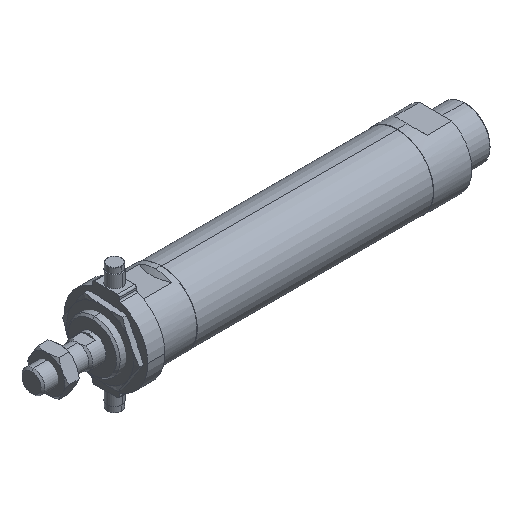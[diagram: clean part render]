
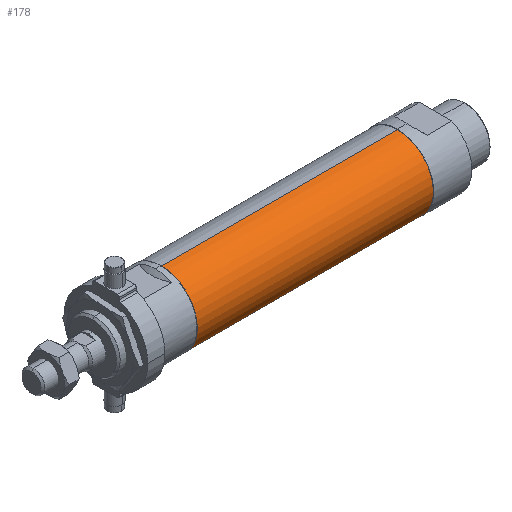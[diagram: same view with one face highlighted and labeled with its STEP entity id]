
A CAD part, isometric view. The second image highlights one B-rep face of the part: STEP entity #178.
In plain terms, the highlighted cylindrical face has radius 18.8 mm (diameter 37.6 mm), a partial arc.
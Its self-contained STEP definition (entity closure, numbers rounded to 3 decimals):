
#129 = CIRCLE ( 'NONE', #4514, 18.8 ) ;
#178 = ADVANCED_FACE ( 'NONE', ( #1795 ), #1429, .T. ) ;
#688 = CARTESIAN_POINT ( 'NONE',  ( 192., 0., 18.8 ) ) ;
#993 = CARTESIAN_POINT ( 'NONE',  ( 68., 0., -18.8 ) ) ;
#1014 = EDGE_LOOP ( 'NONE', ( #4348, #1630, #1169, #1707 ) ) ;
#1018 = DIRECTION ( 'NONE',  ( 0., 0., 1. ) ) ;
#1046 = EDGE_CURVE ( 'NONE', #3927, #2437, #2261, .T. ) ;
#1131 = CARTESIAN_POINT ( 'NONE',  ( 192., 0., -18.8 ) ) ;
#1169 = ORIENTED_EDGE ( 'NONE', *, *, #3642, .T. ) ;
#1200 = DIRECTION ( 'NONE',  ( 0., 0., 1. ) ) ;
#1270 = DIRECTION ( 'NONE',  ( 0., 0., 1. ) ) ;
#1361 = AXIS2_PLACEMENT_3D ( 'NONE', #4336, #2190, #1270 ) ;
#1399 = EDGE_CURVE ( 'NONE', #3927, #4512, #3335, .T. ) ;
#1416 = DIRECTION ( 'NONE',  ( -1., 0., 0. ) ) ;
#1429 = CYLINDRICAL_SURFACE ( 'NONE', #3515, 18.8 ) ;
#1630 = ORIENTED_EDGE ( 'NONE', *, *, #1046, .T. ) ;
#1633 = LINE ( 'NONE', #3420, #3902 ) ;
#1700 = CARTESIAN_POINT ( 'NONE',  ( -1.784, 0., -18.8 ) ) ;
#1707 = ORIENTED_EDGE ( 'NONE', *, *, #3827, .F. ) ;
#1795 = FACE_OUTER_BOUND ( 'NONE', #1014, .T. ) ;
#2190 = DIRECTION ( 'NONE',  ( -1., 0., 0. ) ) ;
#2261 = CIRCLE ( 'NONE', #1361, 18.8 ) ;
#2310 = VECTOR ( 'NONE', #4076, 1000. ) ;
#2437 = VERTEX_POINT ( 'NONE', #688 ) ;
#2791 = CARTESIAN_POINT ( 'NONE',  ( 68., 0., 0. ) ) ;
#3064 = CARTESIAN_POINT ( 'NONE',  ( -1.784, 0., 0. ) ) ;
#3335 = LINE ( 'NONE', #1700, #2310 ) ;
#3420 = CARTESIAN_POINT ( 'NONE',  ( -1.784, 0., 18.8 ) ) ;
#3515 = AXIS2_PLACEMENT_3D ( 'NONE', #3064, #4030, #1018 ) ;
#3589 = VERTEX_POINT ( 'NONE', #3635 ) ;
#3635 = CARTESIAN_POINT ( 'NONE',  ( 68., 0., 18.8 ) ) ;
#3642 = EDGE_CURVE ( 'NONE', #2437, #3589, #1633, .T. ) ;
#3674 = DIRECTION ( 'NONE',  ( -1., 0., 0. ) ) ;
#3827 = EDGE_CURVE ( 'NONE', #4512, #3589, #129, .T. ) ;
#3902 = VECTOR ( 'NONE', #1416, 1000. ) ;
#3927 = VERTEX_POINT ( 'NONE', #1131 ) ;
#4030 = DIRECTION ( 'NONE',  ( -1., 0., 0. ) ) ;
#4076 = DIRECTION ( 'NONE',  ( -1., 0., 0. ) ) ;
#4336 = CARTESIAN_POINT ( 'NONE',  ( 192., 0., 0. ) ) ;
#4348 = ORIENTED_EDGE ( 'NONE', *, *, #1399, .F. ) ;
#4512 = VERTEX_POINT ( 'NONE', #993 ) ;
#4514 = AXIS2_PLACEMENT_3D ( 'NONE', #2791, #3674, #1200 ) ;
